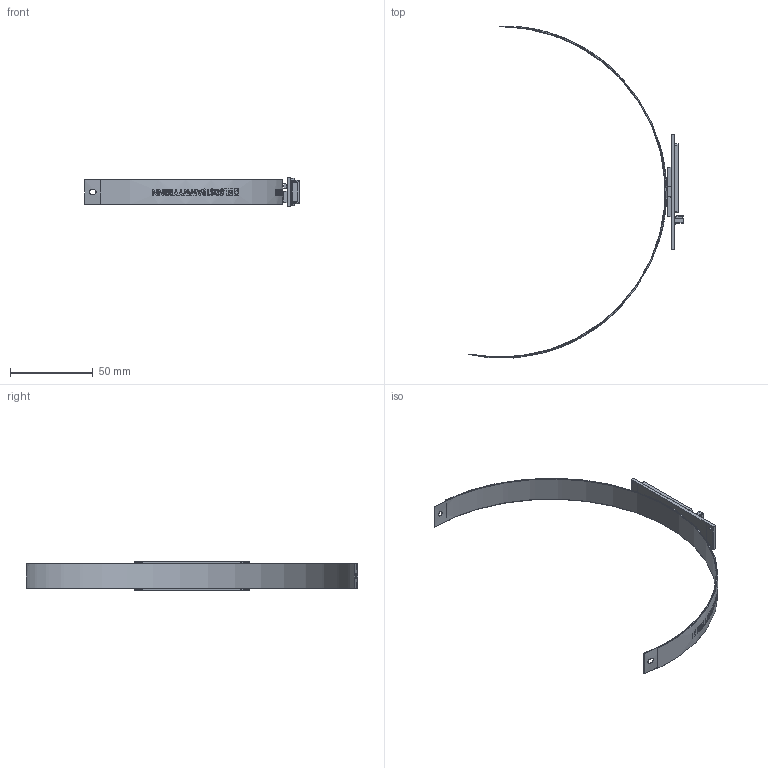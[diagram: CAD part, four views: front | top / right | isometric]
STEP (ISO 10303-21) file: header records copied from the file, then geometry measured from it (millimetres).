
FILE_DESCRIPTION (( 'STEP AP214' ), '1' );
FILE_NAME ('DS19_adaptiven_radij_200mm_DBRxVx_PCB_horizontalen_konektor.STEP', '2024-02-01T12:01:39', ( '' ), ( '' ), 'SwSTEP 2.0', 'SolidWorks 2022', '' );
FILE_SCHEMA (( 'AUTOMOTIVE_DESIGN' ));
Length unit declared in the file: millimetre
Products named in the file (1): DS19_adaptiven_radij_200mm_DBRxVx_PCB_horizontalen_konektor
Bounding box: 129.96 x 200.88 x 17 mm (x, y, z)
Volume: 8717.5 mm3; surface area: 23841 mm2
Topology: 3 solids, 3 shells, 1550 faces, 4217 edges, 2815 vertices
Faces by surface type: plane 938, bspline 459, cylinder 141, cone 8, sphere 4
Entity records: 98365 total; most frequent: CARTESIAN_POINT 49844, ORIENTED_EDGE 8432, EDGE_CURVE 4216, B_SPLINE_CURVE_WITH_KNOTS 3409, DIRECTION 3311, VERTEX_POINT 2815, EDGE_LOOP 1709, UNCERTAINTY_MEASURE_WITH_UNIT 1555
